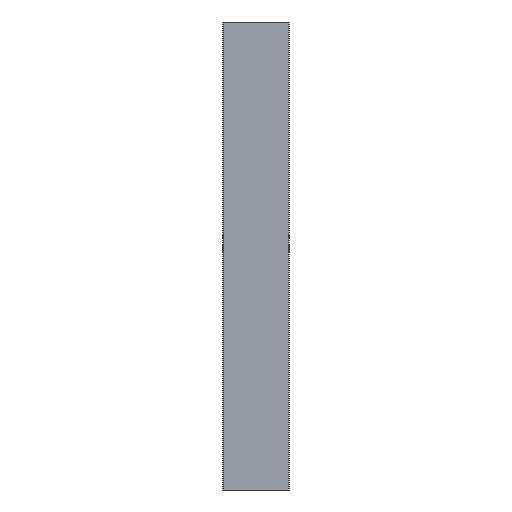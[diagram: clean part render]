
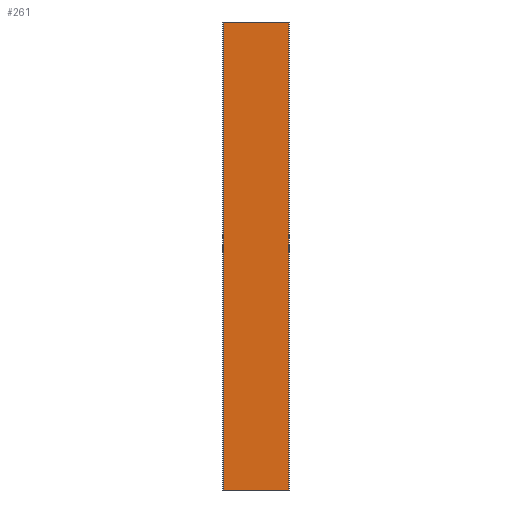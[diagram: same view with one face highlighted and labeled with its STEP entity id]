
A CAD part, left-side view. The second image highlights one B-rep face of the part: STEP entity #261.
In plain terms, the highlighted planar face has unit normal (-1, 0, 0).
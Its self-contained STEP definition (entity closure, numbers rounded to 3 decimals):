
#5 = DIRECTION ( 'NONE',  ( 0., -1., 0. ) ) ;
#44 = CARTESIAN_POINT ( 'NONE',  ( -23.5, 0.5, 0. ) ) ;
#52 = CARTESIAN_POINT ( 'NONE',  ( -23.5, 79.5, 0. ) ) ;
#95 = VECTOR ( 'NONE', #819, 1000. ) ;
#111 = EDGE_LOOP ( 'NONE', ( #148, #169, #1011, #1063 ) ) ;
#148 = ORIENTED_EDGE ( 'NONE', *, *, #799, .F. ) ;
#169 = ORIENTED_EDGE ( 'NONE', *, *, #1407, .F. ) ;
#176 = EDGE_CURVE ( 'NONE', #1053, #231, #808, .T. ) ;
#231 = VERTEX_POINT ( 'NONE', #999 ) ;
#260 = CARTESIAN_POINT ( 'NONE',  ( -23.5, 0.5, -568. ) ) ;
#261 = ADVANCED_FACE ( 'NONE', ( #1220 ), #1345, .T. ) ;
#299 = LINE ( 'NONE', #1398, #687 ) ;
#547 = VERTEX_POINT ( 'NONE', #44 ) ;
#550 = VERTEX_POINT ( 'NONE', #52 ) ;
#687 = VECTOR ( 'NONE', #1515, 1000. ) ;
#691 = LINE ( 'NONE', #260, #848 ) ;
#716 = DIRECTION ( 'NONE',  ( 0., 0., 1. ) ) ;
#756 = DIRECTION ( 'NONE',  ( 0., 0., 1. ) ) ;
#772 = VECTOR ( 'NONE', #5, 1000. ) ;
#782 = LINE ( 'NONE', #937, #95 ) ;
#799 = EDGE_CURVE ( 'NONE', #550, #547, #299, .T. ) ;
#808 = LINE ( 'NONE', #1354, #772 ) ;
#819 = DIRECTION ( 'NONE',  ( 0., 0., 1. ) ) ;
#848 = VECTOR ( 'NONE', #756, 1000. ) ;
#937 = CARTESIAN_POINT ( 'NONE',  ( -23.5, 79.5, -568. ) ) ;
#999 = CARTESIAN_POINT ( 'NONE',  ( -23.5, 0.5, -568. ) ) ;
#1011 = ORIENTED_EDGE ( 'NONE', *, *, #176, .T. ) ;
#1053 = VERTEX_POINT ( 'NONE', #1229 ) ;
#1063 = ORIENTED_EDGE ( 'NONE', *, *, #1076, .T. ) ;
#1076 = EDGE_CURVE ( 'NONE', #231, #547, #691, .T. ) ;
#1086 = DIRECTION ( 'NONE',  ( -1., 0., 0. ) ) ;
#1220 = FACE_OUTER_BOUND ( 'NONE', #111, .T. ) ;
#1229 = CARTESIAN_POINT ( 'NONE',  ( -23.5, 79.5, -568. ) ) ;
#1345 = PLANE ( 'NONE',  #1592 ) ;
#1354 = CARTESIAN_POINT ( 'NONE',  ( -23.5, 79.5, -568. ) ) ;
#1398 = CARTESIAN_POINT ( 'NONE',  ( -23.5, 79.5, 0. ) ) ;
#1407 = EDGE_CURVE ( 'NONE', #1053, #550, #782, .T. ) ;
#1515 = DIRECTION ( 'NONE',  ( 0., -1., 0. ) ) ;
#1584 = CARTESIAN_POINT ( 'NONE',  ( -23.5, 79.5, -568. ) ) ;
#1592 = AXIS2_PLACEMENT_3D ( 'NONE', #1584, #1086, #716 ) ;
